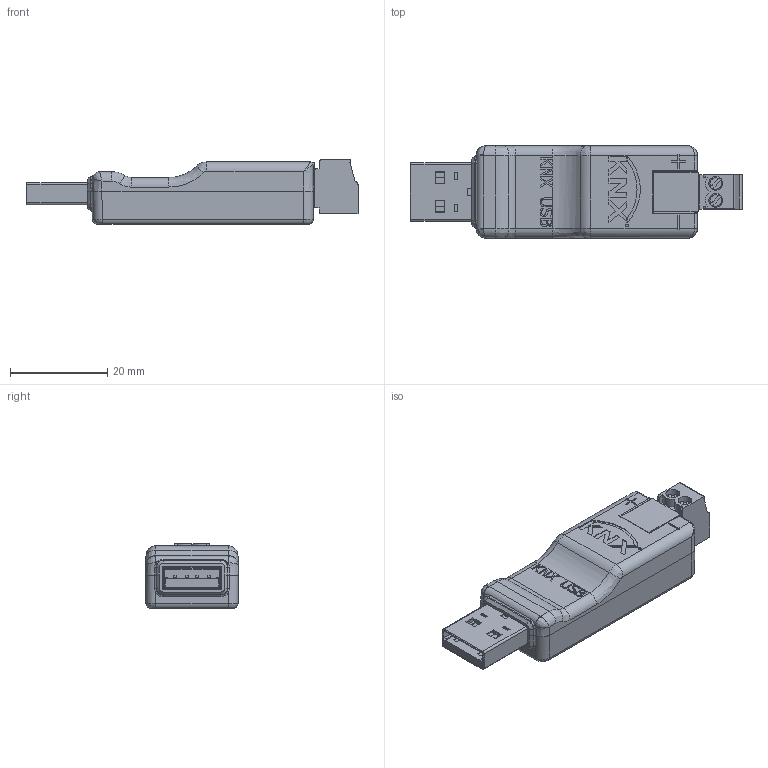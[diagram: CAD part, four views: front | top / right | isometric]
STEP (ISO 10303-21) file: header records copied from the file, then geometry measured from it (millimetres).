
FILE_DESCRIPTION(/* description */ (''),/* implementation_level */ '2;1');
FILE_NAME(/* name */ 'KNX_TP_USB_Interface_Stick_333_secure.stp',/* time_stamp */ '2025-11-03T09:37:05+01:00',/* author */ (''),/* organization */ (''),/* preprocessor_version */ 'ST-DEVELOPER v17.2',/* originating_system */ 'Autodesk Inventor 2019',/* authorisation */ '');
FILE_SCHEMA (('AUTOMOTIVE_DESIGN { 1 0 10303 214 3 1 1 }'));
Length unit declared in the file: millimetre
Products named in the file (1): KNX_TP_USB_Interface_Stick_333_secure
Bounding box: 68.14 x 19.01 x 13.25 mm (x, y, z)
Volume: 10794.9 mm3; surface area: 5104.8 mm2
Topology: 1 solids, 1 shells, 635 faces, 1695 edges, 1081 vertices
Faces by surface type: plane 416, cylinder 117, bspline 84, cone 10, torus 8
Full cylindrical faces by diameter (mm): 0.6 x1, 2.85 x2
Entity records: 21794 total; most frequent: CARTESIAN_POINT 5537, ORIENTED_EDGE 3382, DIRECTION 3008, EDGE_CURVE 1691, LINE 1220, VECTOR 1220, VERTEX_POINT 1081, AXIS2_PLACEMENT_3D 894
